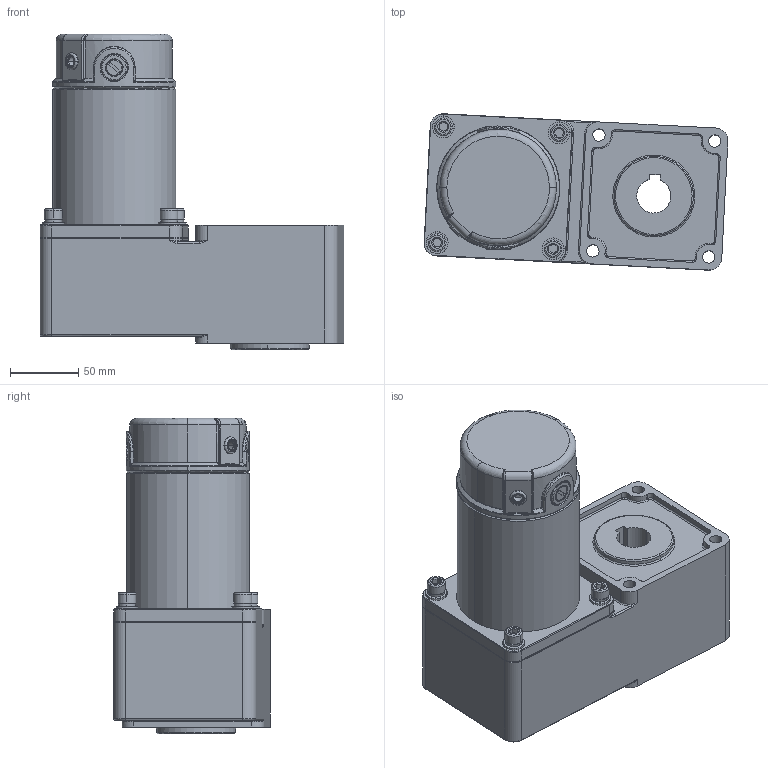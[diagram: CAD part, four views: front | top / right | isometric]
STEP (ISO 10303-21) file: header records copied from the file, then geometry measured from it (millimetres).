
FILE_DESCRIPTION (( 'STEP AP214' ), '1' );
FILE_NAME ('100饜6GUL倰喘謫眊-100儂褲.STEP', '2021-07-24T02:24:55', ( '' ), ( '' ), 'SwSTEP 2.0', 'SolidWorks 2021', '' );
FILE_SCHEMA (( 'AUTOMOTIVE_DESIGN' ));
Length unit declared in the file: millimetre
Products named in the file (8): LUO-M8; JK_1; 104L倰喘謫眊; PRT0001_1_1; PING-M8; TAN-M8; 100饜6GUL倰喘謫眊-100儂褲; H
Assembly tree (16 placements, depth 2):
  100饜6GUL倰喘謫眊-100儂褲
    H
    LUO-M8  x4
    TAN-M8  x4
    PING-M8  x4
    JK_1
    PRT0001_1_1
    104L倰喘謫眊
Bounding box: 222.2 x 114.31 x 231 mm (x, y, z)
Volume: 1944852.2 mm3; surface area: 246605.2 mm2
Topology: 19 solids, 19 shells, 632 faces, 1501 edges, 922 vertices
Faces by surface type: cylinder 227, plane 144, cone 142, bspline 84, torus 32, sphere 3
Entity records: 26689 total; most frequent: CARTESIAN_POINT 12532, ORIENTED_EDGE 2180, DIRECTION 1997, EDGE_CURVE 1090, AXIS2_PLACEMENT_3D 805, VERTEX_POINT 676, EDGE_LOOP 518, FACE_OUTER_BOUND 458
